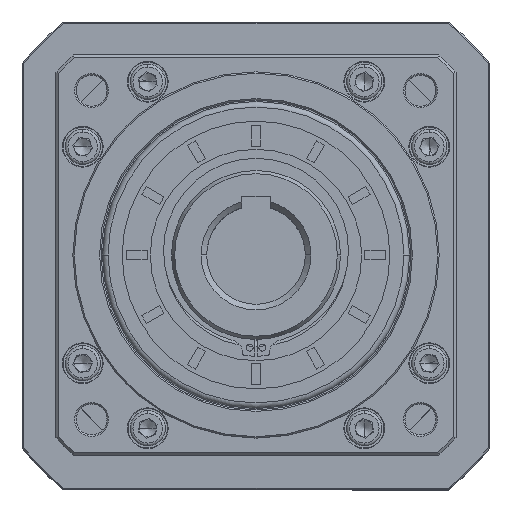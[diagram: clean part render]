
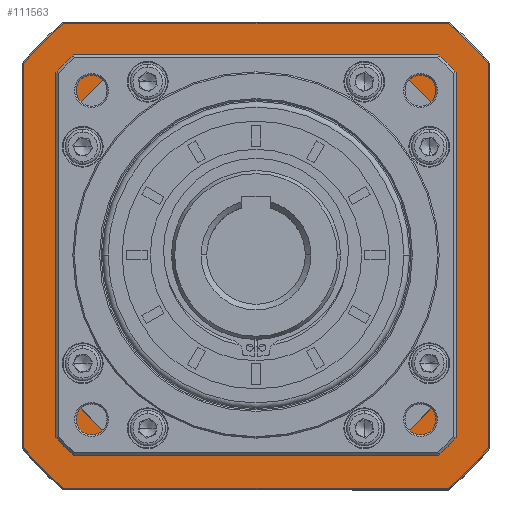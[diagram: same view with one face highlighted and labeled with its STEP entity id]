
A CAD part, top view. The second image highlights one B-rep face of the part: STEP entity #111563.
In plain terms, the highlighted planar face has unit normal (0, 0, 1).
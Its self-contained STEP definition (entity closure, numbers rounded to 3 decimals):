
#25 = CIRCLE ( 'NONE', #111982, 82. ) ;
#1535 = DIRECTION ( 'NONE',  ( 0., -1., 0. ) ) ;
#2193 = EDGE_CURVE ( 'NONE', #81307, #44131, #74183, .T. ) ;
#2416 = VERTEX_POINT ( 'NONE', #79765 ) ;
#4788 = VERTEX_POINT ( 'NONE', #86638 ) ;
#6206 = EDGE_CURVE ( 'NONE', #4788, #18004, #112890, .T. ) ;
#6770 = EDGE_CURVE ( 'NONE', #22582, #2416, #79548, .T. ) ;
#8423 = DIRECTION ( 'NONE',  ( -1., 0., 0. ) ) ;
#8553 = VECTOR ( 'NONE', #67887, 1000. ) ;
#8567 = PLANE ( 'NONE',  #87378 ) ;
#10957 = EDGE_CURVE ( 'NONE', #50023, #4788, #78787, .T. ) ;
#11056 = ORIENTED_EDGE ( 'NONE', *, *, #13873, .F. ) ;
#12826 = DIRECTION ( 'NONE',  ( 0., 0., 1. ) ) ;
#13001 = CARTESIAN_POINT ( 'NONE',  ( 167.721, 100.69, -13.331 ) ) ;
#13287 = EDGE_CURVE ( 'NONE', #84603, #68915, #62732, .T. ) ;
#13660 = EDGE_CURVE ( 'NONE', #36541, #84603, #43113, .T. ) ;
#13873 = EDGE_CURVE ( 'NONE', #44131, #99498, #69426, .T. ) ;
#18004 = VERTEX_POINT ( 'NONE', #57429 ) ;
#18426 = CARTESIAN_POINT ( 'NONE',  ( 209.599, 171.19, -13.331 ) ) ;
#19529 = VERTEX_POINT ( 'NONE', #35629 ) ;
#20132 = DIRECTION ( 'NONE',  ( -1., 0., 0. ) ) ;
#20828 = DIRECTION ( 'NONE',  ( 1., 0., 0. ) ) ;
#21975 = DIRECTION ( 'NONE',  ( -1., 0., 0. ) ) ;
#22356 = CARTESIAN_POINT ( 'NONE',  ( 125.844, 171.19, -13.331 ) ) ;
#22582 = VERTEX_POINT ( 'NONE', #46465 ) ;
#23876 = DIRECTION ( 'NONE',  ( 0., 0., -1. ) ) ;
#23887 = DIRECTION ( 'NONE',  ( 0., 1., 0. ) ) ;
#23972 = ORIENTED_EDGE ( 'NONE', *, *, #106278, .F. ) ;
#25520 = AXIS2_PLACEMENT_3D ( 'NONE', #37315, #54050, #1535 ) ;
#27243 = CARTESIAN_POINT ( 'NONE',  ( 167.721, 100.69, -13.331 ) ) ;
#28376 = AXIS2_PLACEMENT_3D ( 'NONE', #66999, #23876, #93695 ) ;
#29948 = CARTESIAN_POINT ( 'NONE',  ( 209.599, 30.19, -13.331 ) ) ;
#30178 = LINE ( 'NONE', #114668, #33005 ) ;
#30202 = DIRECTION ( 'NONE',  ( -1., 0., 0. ) ) ;
#30960 = VECTOR ( 'NONE', #82661, 1000. ) ;
#32113 = ORIENTED_EDGE ( 'NONE', *, *, #106690, .F. ) ;
#33005 = VECTOR ( 'NONE', #8423, 1000. ) ;
#34471 = CARTESIAN_POINT ( 'NONE',  ( 238.721, 171.19, -13.331 ) ) ;
#34692 = VERTEX_POINT ( 'NONE', #108534 ) ;
#35365 = DIRECTION ( 'NONE',  ( -1., 0., 0. ) ) ;
#35629 = CARTESIAN_POINT ( 'NONE',  ( 85.221, 168.827, -13.331 ) ) ;
#35963 = VECTOR ( 'NONE', #73233, 1000. ) ;
#36541 = VERTEX_POINT ( 'NONE', #22356 ) ;
#36798 = ORIENTED_EDGE ( 'NONE', *, *, #62948, .F. ) ;
#37315 = CARTESIAN_POINT ( 'NONE',  ( 167.721, 100.69, -13.331 ) ) ;
#37589 = VERTEX_POINT ( 'NONE', #61926 ) ;
#38020 = CARTESIAN_POINT ( 'NONE',  ( 167.721, 100.69, -13.331 ) ) ;
#39056 = DIRECTION ( 'NONE',  ( 0., 0., -1. ) ) ;
#39076 = CARTESIAN_POINT ( 'NONE',  ( 97.221, 142.567, -13.331 ) ) ;
#39638 = DIRECTION ( 'NONE',  ( 1., 0., 0. ) ) ;
#40619 = EDGE_LOOP ( 'NONE', ( #36798, #82450, #93855, #105429, #57831, #32113, #109509, #114087 ) ) ;
#40686 = AXIS2_PLACEMENT_3D ( 'NONE', #38020, #82600, #20132 ) ;
#41552 = LINE ( 'NONE', #109958, #35963 ) ;
#42251 = EDGE_CURVE ( 'NONE', #2416, #19529, #111402, .T. ) ;
#43113 = CIRCLE ( 'NONE', #43517, 82. ) ;
#43170 = VERTEX_POINT ( 'NONE', #18426 ) ;
#43517 = AXIS2_PLACEMENT_3D ( 'NONE', #64738, #83264, #20828 ) ;
#43733 = ORIENTED_EDGE ( 'NONE', *, *, #13660, .F. ) ;
#44131 = VERTEX_POINT ( 'NONE', #83679 ) ;
#46465 = CARTESIAN_POINT ( 'NONE',  ( 99.584, 18.19, -13.331 ) ) ;
#48596 = CARTESIAN_POINT ( 'NONE',  ( 167.721, 100.69, -13.331 ) ) ;
#49452 = DIRECTION ( 'NONE',  ( 1., 0., 0. ) ) ;
#49534 = AXIS2_PLACEMENT_3D ( 'NONE', #48596, #12826, #39638 ) ;
#50023 = VERTEX_POINT ( 'NONE', #86081 ) ;
#50743 = VERTEX_POINT ( 'NONE', #66416 ) ;
#51473 = CIRCLE ( 'NONE', #25520, 82. ) ;
#54036 = EDGE_CURVE ( 'NONE', #50743, #81307, #104524, .T. ) ;
#54050 = DIRECTION ( 'NONE',  ( 0., 0., 1. ) ) ;
#54881 = DIRECTION ( 'NONE',  ( 0., 0., 1. ) ) ;
#57057 = ORIENTED_EDGE ( 'NONE', *, *, #2193, .F. ) ;
#57429 = CARTESIAN_POINT ( 'NONE',  ( 250.221, 168.827, -13.331 ) ) ;
#57831 = ORIENTED_EDGE ( 'NONE', *, *, #10957, .F. ) ;
#60501 = CARTESIAN_POINT ( 'NONE',  ( 97.221, 29.69, -13.331 ) ) ;
#61529 = CARTESIAN_POINT ( 'NONE',  ( 238.221, 142.567, -13.331 ) ) ;
#61926 = CARTESIAN_POINT ( 'NONE',  ( 250.221, 32.552, -13.331 ) ) ;
#62732 = LINE ( 'NONE', #60501, #8553 ) ;
#62948 = EDGE_CURVE ( 'NONE', #34692, #22582, #30178, .T. ) ;
#63761 = DIRECTION ( 'NONE',  ( 0., -1., 0. ) ) ;
#64738 = CARTESIAN_POINT ( 'NONE',  ( 167.721, 100.69, -13.331 ) ) ;
#64892 = CARTESIAN_POINT ( 'NONE',  ( 85.221, 100.69, -13.331 ) ) ;
#66416 = CARTESIAN_POINT ( 'NONE',  ( 125.844, 30.19, -13.331 ) ) ;
#66999 = CARTESIAN_POINT ( 'NONE',  ( 167.721, 100.69, -13.331 ) ) ;
#67887 = DIRECTION ( 'NONE',  ( 0., -1., 0. ) ) ;
#68838 = LINE ( 'NONE', #34471, #111814 ) ;
#68873 = ORIENTED_EDGE ( 'NONE', *, *, #13287, .F. ) ;
#68915 = VERTEX_POINT ( 'NONE', #73297 ) ;
#69005 = ORIENTED_EDGE ( 'NONE', *, *, #86388, .F. ) ;
#69413 = AXIS2_PLACEMENT_3D ( 'NONE', #13001, #39056, #21975 ) ;
#69426 = LINE ( 'NONE', #78170, #115153 ) ;
#70009 = EDGE_CURVE ( 'NONE', #37589, #34692, #80122, .T. ) ;
#73233 = DIRECTION ( 'NONE',  ( 0., -1., 0. ) ) ;
#73297 = CARTESIAN_POINT ( 'NONE',  ( 97.221, 58.812, -13.331 ) ) ;
#74183 = CIRCLE ( 'NONE', #49534, 82. ) ;
#74486 = DIRECTION ( 'NONE',  ( 0., 0., -1. ) ) ;
#78117 = FACE_BOUND ( 'NONE', #82364, .T. ) ;
#78170 = CARTESIAN_POINT ( 'NONE',  ( 238.221, 29.69, -13.331 ) ) ;
#78787 = LINE ( 'NONE', #92507, #110708 ) ;
#79548 = CIRCLE ( 'NONE', #69413, 107. ) ;
#79577 = DIRECTION ( 'NONE',  ( 0., 0., -1. ) ) ;
#79733 = EDGE_CURVE ( 'NONE', #18004, #37589, #41552, .T. ) ;
#79765 = CARTESIAN_POINT ( 'NONE',  ( 85.221, 32.552, -13.331 ) ) ;
#80122 = CIRCLE ( 'NONE', #110047, 107. ) ;
#80372 = CIRCLE ( 'NONE', #40686, 107. ) ;
#81307 = VERTEX_POINT ( 'NONE', #29948 ) ;
#82289 = VECTOR ( 'NONE', #83372, 1000. ) ;
#82364 = EDGE_LOOP ( 'NONE', ( #96975, #11056, #57057, #83325, #23972, #68873, #43733, #69005 ) ) ;
#82450 = ORIENTED_EDGE ( 'NONE', *, *, #70009, .F. ) ;
#82600 = DIRECTION ( 'NONE',  ( 0., 0., -1. ) ) ;
#82661 = DIRECTION ( 'NONE',  ( 0., 1., 0. ) ) ;
#83264 = DIRECTION ( 'NONE',  ( 0., 0., 1. ) ) ;
#83325 = ORIENTED_EDGE ( 'NONE', *, *, #54036, .F. ) ;
#83372 = DIRECTION ( 'NONE',  ( 1., 0., 0. ) ) ;
#83679 = CARTESIAN_POINT ( 'NONE',  ( 238.221, 58.812, -13.331 ) ) ;
#84603 = VERTEX_POINT ( 'NONE', #39076 ) ;
#86081 = CARTESIAN_POINT ( 'NONE',  ( 99.584, 183.19, -13.331 ) ) ;
#86388 = EDGE_CURVE ( 'NONE', #43170, #36541, #68838, .T. ) ;
#86638 = CARTESIAN_POINT ( 'NONE',  ( 235.859, 183.19, -13.331 ) ) ;
#87378 = AXIS2_PLACEMENT_3D ( 'NONE', #105195, #79577, #35365 ) ;
#91926 = CARTESIAN_POINT ( 'NONE',  ( 238.721, 30.19, -13.331 ) ) ;
#92014 = FACE_OUTER_BOUND ( 'NONE', #40619, .T. ) ;
#92507 = CARTESIAN_POINT ( 'NONE',  ( 167.721, 183.19, -13.331 ) ) ;
#92678 = CARTESIAN_POINT ( 'NONE',  ( 167.721, 100.69, -13.331 ) ) ;
#93695 = DIRECTION ( 'NONE',  ( -1., 0., 0. ) ) ;
#93855 = ORIENTED_EDGE ( 'NONE', *, *, #79733, .F. ) ;
#96975 = ORIENTED_EDGE ( 'NONE', *, *, #104235, .F. ) ;
#99498 = VERTEX_POINT ( 'NONE', #61529 ) ;
#104235 = EDGE_CURVE ( 'NONE', #99498, #43170, #51473, .T. ) ;
#104524 = LINE ( 'NONE', #91926, #82289 ) ;
#105195 = CARTESIAN_POINT ( 'NONE',  ( 167.721, 100.69, -13.331 ) ) ;
#105429 = ORIENTED_EDGE ( 'NONE', *, *, #6206, .F. ) ;
#106278 = EDGE_CURVE ( 'NONE', #68915, #50743, #25, .T. ) ;
#106690 = EDGE_CURVE ( 'NONE', #19529, #50023, #80372, .T. ) ;
#108534 = CARTESIAN_POINT ( 'NONE',  ( 235.859, 18.19, -13.331 ) ) ;
#109509 = ORIENTED_EDGE ( 'NONE', *, *, #42251, .F. ) ;
#109958 = CARTESIAN_POINT ( 'NONE',  ( 250.221, 100.69, -13.331 ) ) ;
#110047 = AXIS2_PLACEMENT_3D ( 'NONE', #92678, #74486, #30202 ) ;
#110708 = VECTOR ( 'NONE', #49452, 1000. ) ;
#111402 = LINE ( 'NONE', #64892, #30960 ) ;
#111563 = ADVANCED_FACE ( 'NONE', ( #92014, #78117 ), #8567, .F. ) ;
#111814 = VECTOR ( 'NONE', #114297, 1000. ) ;
#111982 = AXIS2_PLACEMENT_3D ( 'NONE', #27243, #54881, #63761 ) ;
#112890 = CIRCLE ( 'NONE', #28376, 107. ) ;
#114087 = ORIENTED_EDGE ( 'NONE', *, *, #6770, .F. ) ;
#114297 = DIRECTION ( 'NONE',  ( -1., 0., 0. ) ) ;
#114668 = CARTESIAN_POINT ( 'NONE',  ( 167.721, 18.19, -13.331 ) ) ;
#115153 = VECTOR ( 'NONE', #23887, 1000. ) ;
